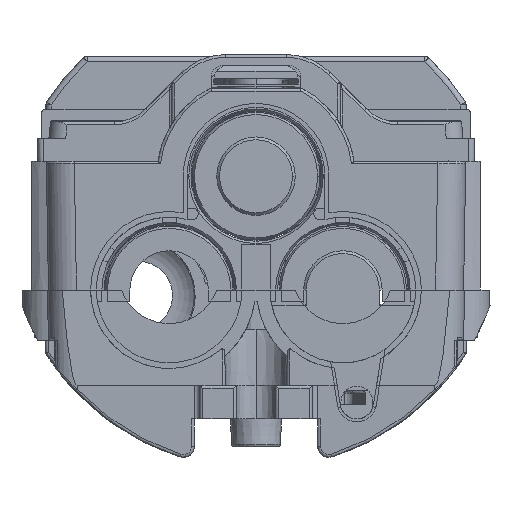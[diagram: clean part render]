
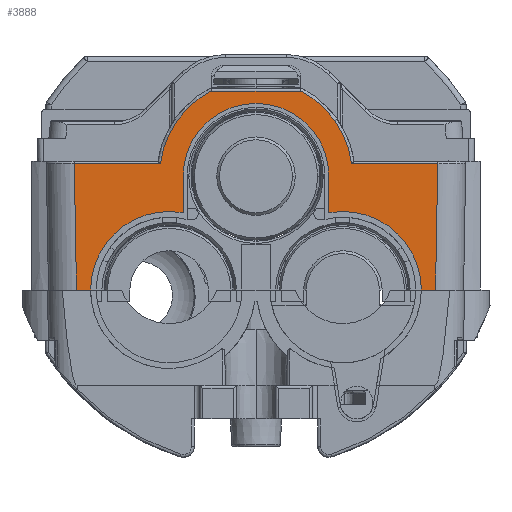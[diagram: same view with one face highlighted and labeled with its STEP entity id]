
A CAD part, left-side view. The second image highlights one B-rep face of the part: STEP entity #3888.
In plain terms, the highlighted planar face has unit normal (-1, 0, 0).
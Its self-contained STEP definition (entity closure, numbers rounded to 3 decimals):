
#12 = CIRCLE ( 'NONE', #40566, 13. ) ;
#1702 = VERTEX_POINT ( 'NONE', #3080 ) ;
#1750 = LINE ( 'NONE', #32964, #46460 ) ;
#2465 = CARTESIAN_POINT ( 'NONE',  ( -325.383, 37.029, 34. ) ) ;
#3080 = CARTESIAN_POINT ( 'NONE',  ( -325.383, -13., 54.3 ) ) ;
#3231 = VERTEX_POINT ( 'NONE', #16866 ) ;
#3449 = ORIENTED_EDGE ( 'NONE', *, *, #18152, .T. ) ;
#3888 = ADVANCED_FACE ( 'NONE', ( #8542 ), #46721, .F. ) ;
#4284 = ORIENTED_EDGE ( 'NONE', *, *, #26524, .F. ) ;
#5299 = DIRECTION ( 'NONE',  ( -1., 0., 0. ) ) ;
#5752 = VECTOR ( 'NONE', #52095, 1000. ) ;
#6173 = CARTESIAN_POINT ( 'NONE',  ( -325.383, 13., 54.3 ) ) ;
#6459 = AXIS2_PLACEMENT_3D ( 'NONE', #39137, #11115, #43602 ) ;
#6653 = CARTESIAN_POINT ( 'NONE',  ( -325.383, 0., 54.3 ) ) ;
#7176 = VERTEX_POINT ( 'NONE', #20993 ) ;
#8542 = FACE_OUTER_BOUND ( 'NONE', #9723, .T. ) ;
#8735 = ORIENTED_EDGE ( 'NONE', *, *, #24905, .F. ) ;
#9122 = CARTESIAN_POINT ( 'NONE',  ( -325.383, 37.029, 69.5 ) ) ;
#9723 = EDGE_LOOP ( 'NONE', ( #52267, #11401, #26845, #3449, #35671, #14313, #46136, #4284, #8735, #25673, #43506, #14416, #39344, #49677 ) ) ;
#10550 = DIRECTION ( 'NONE',  ( 0., -0.017, -1. ) ) ;
#10963 = CARTESIAN_POINT ( 'NONE',  ( -325.383, -13., 54.3 ) ) ;
#11050 = VERTEX_POINT ( 'NONE', #57348 ) ;
#11115 = DIRECTION ( 'NONE',  ( -1., 0., 0. ) ) ;
#11241 = DIRECTION ( 'NONE',  ( 0., 0., -1. ) ) ;
#11401 = ORIENTED_EDGE ( 'NONE', *, *, #17225, .T. ) ;
#13233 = DIRECTION ( 'NONE',  ( -1., 0., 0. ) ) ;
#13689 = CIRCLE ( 'NONE', #14547, 17.2 ) ;
#14313 = ORIENTED_EDGE ( 'NONE', *, *, #23672, .F. ) ;
#14416 = ORIENTED_EDGE ( 'NONE', *, *, #25276, .T. ) ;
#14547 = AXIS2_PLACEMENT_3D ( 'NONE', #6653, #39275, #11241 ) ;
#14606 = DIRECTION ( 'NONE',  ( 0., -0.017, 1. ) ) ;
#16866 = CARTESIAN_POINT ( 'NONE',  ( -325.383, -29.5, 34. ) ) ;
#17225 = EDGE_CURVE ( 'NONE', #52330, #42991, #20749, .T. ) ;
#18102 = CIRCLE ( 'NONE', #6459, 14. ) ;
#18152 = EDGE_CURVE ( 'NONE', #58587, #23330, #1750, .T. ) ;
#18172 = VERTEX_POINT ( 'NONE', #55420 ) ;
#18230 = EDGE_CURVE ( 'NONE', #42991, #58587, #31679, .T. ) ;
#19622 = DIRECTION ( 'NONE',  ( 0., 0., 1. ) ) ;
#20749 = LINE ( 'NONE', #45575, #31794 ) ;
#20943 = EDGE_CURVE ( 'NONE', #25192, #52330, #47091, .T. ) ;
#20993 = CARTESIAN_POINT ( 'NONE',  ( -325.383, 13., 47.775 ) ) ;
#21733 = CARTESIAN_POINT ( 'NONE',  ( -325.383, -15.5, 34. ) ) ;
#22665 = VECTOR ( 'NONE', #36938, 1000. ) ;
#22863 = CARTESIAN_POINT ( 'NONE',  ( -325.383, -13., 47.775 ) ) ;
#22918 = EDGE_CURVE ( 'NONE', #7176, #23330, #18102, .T. ) ;
#23122 = EDGE_CURVE ( 'NONE', #30191, #25192, #46939, .T. ) ;
#23287 = EDGE_CURVE ( 'NONE', #18172, #30191, #13689, .T. ) ;
#23330 = VERTEX_POINT ( 'NONE', #30200 ) ;
#23672 = EDGE_CURVE ( 'NONE', #45540, #7176, #54493, .T. ) ;
#24554 = EDGE_CURVE ( 'NONE', #3231, #11050, #57214, .T. ) ;
#24816 = CARTESIAN_POINT ( 'NONE',  ( -325.383, 17.059, 56.5 ) ) ;
#24905 = EDGE_CURVE ( 'NONE', #3231, #58224, #52244, .T. ) ;
#25192 = VERTEX_POINT ( 'NONE', #42348 ) ;
#25194 = EDGE_CURVE ( 'NONE', #11050, #31772, #26117, .T. ) ;
#25276 = EDGE_CURVE ( 'NONE', #31772, #18172, #34088, .T. ) ;
#25586 = LINE ( 'NONE', #10963, #37888 ) ;
#25673 = ORIENTED_EDGE ( 'NONE', *, *, #24554, .T. ) ;
#26117 = LINE ( 'NONE', #38012, #37010 ) ;
#26331 = EDGE_CURVE ( 'NONE', #1702, #45540, #12, .T. ) ;
#26520 = DIRECTION ( 'NONE',  ( 0., -1., 0. ) ) ;
#26524 = EDGE_CURVE ( 'NONE', #58224, #1702, #25586, .T. ) ;
#26845 = ORIENTED_EDGE ( 'NONE', *, *, #18230, .T. ) ;
#27705 = CARTESIAN_POINT ( 'NONE',  ( -325.383, -32.421, 56.5 ) ) ;
#28489 = CARTESIAN_POINT ( 'NONE',  ( -325.383, 32.028, 34. ) ) ;
#28853 = CARTESIAN_POINT ( 'NONE',  ( -325.383, 32.421, 56.5 ) ) ;
#30191 = VERTEX_POINT ( 'NONE', #31266 ) ;
#30200 = CARTESIAN_POINT ( 'NONE',  ( -325.383, 29.5, 34. ) ) ;
#31140 = CARTESIAN_POINT ( 'NONE',  ( -325.383, 13., 54.3 ) ) ;
#31266 = CARTESIAN_POINT ( 'NONE',  ( -325.383, -8.05, 69.5 ) ) ;
#31679 = LINE ( 'NONE', #33934, #43130 ) ;
#31772 = VERTEX_POINT ( 'NONE', #27705 ) ;
#31794 = VECTOR ( 'NONE', #58663, 1000. ) ;
#32964 = CARTESIAN_POINT ( 'NONE',  ( -325.383, 37.029, 34. ) ) ;
#33296 = CARTESIAN_POINT ( 'NONE',  ( -325.383, 0., 54.3 ) ) ;
#33934 = CARTESIAN_POINT ( 'NONE',  ( -325.383, 32.762, 76.074 ) ) ;
#34088 = LINE ( 'NONE', #57216, #44649 ) ;
#34986 = DIRECTION ( 'NONE',  ( 0., 1., 0. ) ) ;
#35671 = ORIENTED_EDGE ( 'NONE', *, *, #22918, .F. ) ;
#36938 = DIRECTION ( 'NONE',  ( 0., 1., 0. ) ) ;
#37010 = VECTOR ( 'NONE', #14606, 1000. ) ;
#37888 = VECTOR ( 'NONE', #19622, 1000. ) ;
#37916 = DIRECTION ( 'NONE',  ( 0., 0., -1. ) ) ;
#38012 = CARTESIAN_POINT ( 'NONE',  ( -325.383, -32.74, 74.782 ) ) ;
#39137 = CARTESIAN_POINT ( 'NONE',  ( -325.383, 15.5, 34. ) ) ;
#39275 = DIRECTION ( 'NONE',  ( -1., 0., 0. ) ) ;
#39344 = ORIENTED_EDGE ( 'NONE', *, *, #23287, .T. ) ;
#39917 = AXIS2_PLACEMENT_3D ( 'NONE', #33296, #5299, #37916 ) ;
#40566 = AXIS2_PLACEMENT_3D ( 'NONE', #41217, #13233, #45585 ) ;
#41217 = CARTESIAN_POINT ( 'NONE',  ( -325.383, 0., 54.3 ) ) ;
#42348 = CARTESIAN_POINT ( 'NONE',  ( -325.383, 8.05, 69.5 ) ) ;
#42991 = VERTEX_POINT ( 'NONE', #28853 ) ;
#43130 = VECTOR ( 'NONE', #10550, 1000. ) ;
#43506 = ORIENTED_EDGE ( 'NONE', *, *, #25194, .T. ) ;
#43602 = DIRECTION ( 'NONE',  ( 0., -1., 0. ) ) ;
#44649 = VECTOR ( 'NONE', #34986, 1000. ) ;
#45540 = VERTEX_POINT ( 'NONE', #31140 ) ;
#45575 = CARTESIAN_POINT ( 'NONE',  ( -325.383, 37.029, 56.5 ) ) ;
#45585 = DIRECTION ( 'NONE',  ( 0., -1., 0. ) ) ;
#45956 = CARTESIAN_POINT ( 'NONE',  ( -325.383, 37.029, 76. ) ) ;
#46136 = ORIENTED_EDGE ( 'NONE', *, *, #26331, .F. ) ;
#46460 = VECTOR ( 'NONE', #46491, 1000. ) ;
#46491 = DIRECTION ( 'NONE',  ( 0., -1., 0. ) ) ;
#46721 = PLANE ( 'NONE',  #54886 ) ;
#46779 = VECTOR ( 'NONE', #48294, 1000. ) ;
#46939 = LINE ( 'NONE', #9122, #22665 ) ;
#47091 = CIRCLE ( 'NONE', #39917, 17.2 ) ;
#47779 = DIRECTION ( 'NONE',  ( 1., 0., 0. ) ) ;
#47847 = DIRECTION ( 'NONE',  ( 0., 0., -1. ) ) ;
#48294 = DIRECTION ( 'NONE',  ( 0., -1., 0. ) ) ;
#49677 = ORIENTED_EDGE ( 'NONE', *, *, #23122, .T. ) ;
#50000 = AXIS2_PLACEMENT_3D ( 'NONE', #21733, #53500, #26520 ) ;
#52095 = DIRECTION ( 'NONE',  ( 0., 0., -1. ) ) ;
#52244 = CIRCLE ( 'NONE', #50000, 14. ) ;
#52267 = ORIENTED_EDGE ( 'NONE', *, *, #20943, .T. ) ;
#52330 = VERTEX_POINT ( 'NONE', #24816 ) ;
#53500 = DIRECTION ( 'NONE',  ( -1., 0., 0. ) ) ;
#54493 = LINE ( 'NONE', #6173, #5752 ) ;
#54886 = AXIS2_PLACEMENT_3D ( 'NONE', #45956, #47779, #47847 ) ;
#55420 = CARTESIAN_POINT ( 'NONE',  ( -325.383, -17.059, 56.5 ) ) ;
#57214 = LINE ( 'NONE', #2465, #46779 ) ;
#57216 = CARTESIAN_POINT ( 'NONE',  ( -325.383, 37.029, 56.5 ) ) ;
#57348 = CARTESIAN_POINT ( 'NONE',  ( -325.383, -32.028, 34. ) ) ;
#58224 = VERTEX_POINT ( 'NONE', #22863 ) ;
#58587 = VERTEX_POINT ( 'NONE', #28489 ) ;
#58663 = DIRECTION ( 'NONE',  ( 0., 1., 0. ) ) ;
